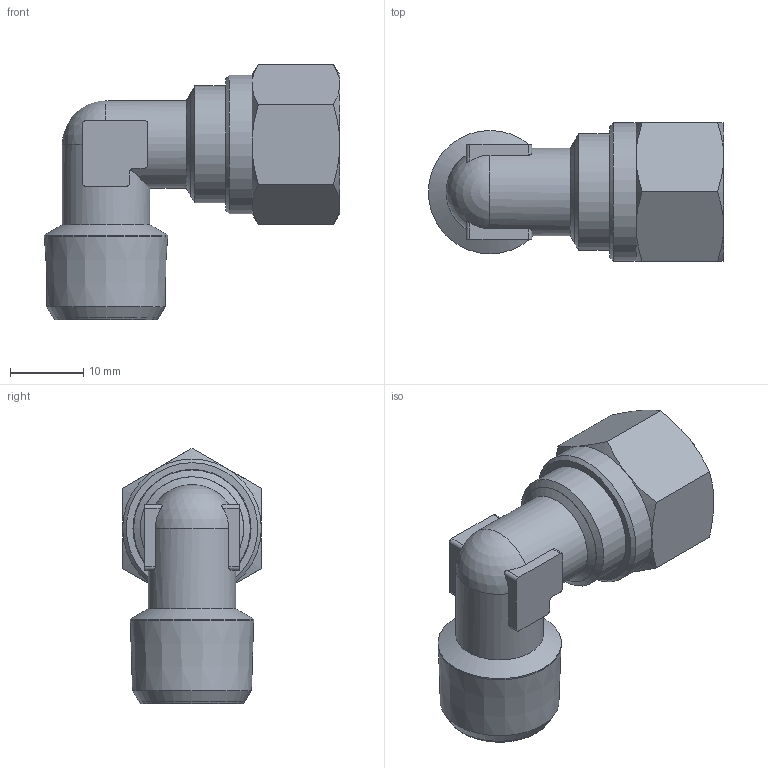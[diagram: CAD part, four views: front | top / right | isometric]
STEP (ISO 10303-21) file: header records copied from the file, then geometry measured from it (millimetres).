
FILE_DESCRIPTION(('Bauteilbeschreibung','HiCAD-Model','HiCAD-STEP-TRANSLATION','Bauteilbeschreibung'),'2;1');
FILE_NAME('B:/ABGLEICH/ZEICHNUNGEN/STEP FÜR INTERNET/STEP/205/92808_205_10_3-8.STP','2011-11-24T16:50:42+00:00',('Konstrukteur'),('Konstrukteur Firma GmbH'),' HiCAD neXt 2008, Step 3.1.1401.2J ','HiCAD neXt 2008','confidential');
FILE_SCHEMA(('AUTOMOTIVE_DESIGN { 1 2 10303 214 0 1 1 1 }'));
Length unit declared in the file: millimetre
Products named in the file (8): A2808_205_10_3_8; A6804; A68040; DIN 13_M16X1_5; A2806; A28060; R 3_8; DIN0130M16X105
Assembly tree (7 placements, depth 3):
  A2808_205_10_3_8
    A6804
    A68040
      DIN 13_M16X1_5
    A2806
    A28060
      R 3_8
      DIN0130M16X105
Bounding box: 40.45 x 19 x 34.97 mm (x, y, z)
Volume: 6784.3 mm3; surface area: 8793.2 mm2
Topology: 5 solids, 5 shells, 97 faces, 243 edges, 154 vertices
Faces by surface type: cone 35, cylinder 32, plane 29, sphere 1
Full cylindrical faces by diameter (mm): 8 x2, 10 x2, 11 x1, 12 x2, 14.16 x4, 16 x3, 16.893 x1, 19 x1
Entity records: 7463 total; most frequent: CARTESIAN_POINT 4445, DIRECTION 440, ORIENTED_EDGE 372, AXIS2_PLACEMENT_3D 195, EDGE_CURVE 186, COLOUR_RGB 165, PRESENTATION_STYLE_ASSIGNMENT 165, CURVE_STYLE 160
